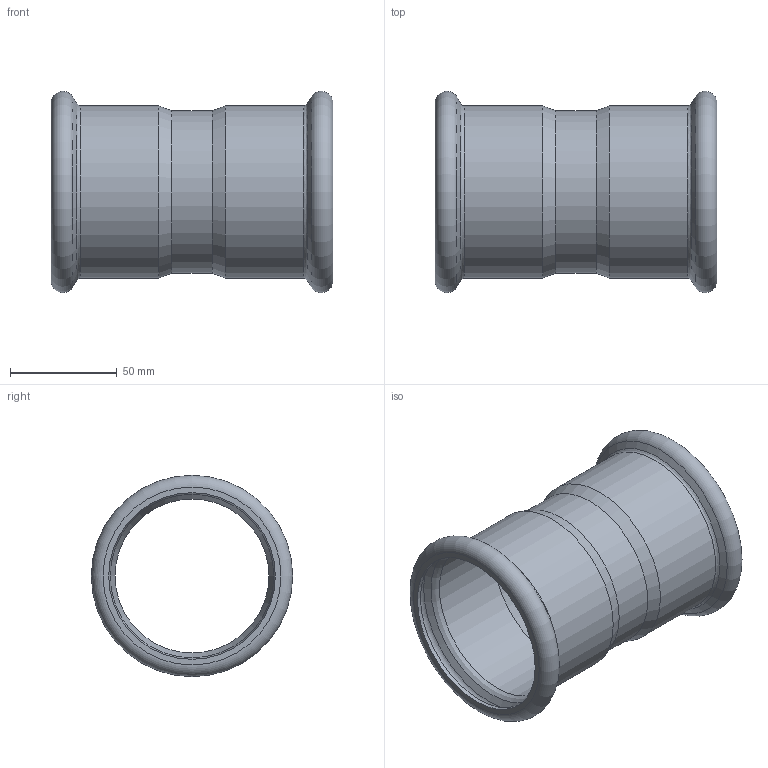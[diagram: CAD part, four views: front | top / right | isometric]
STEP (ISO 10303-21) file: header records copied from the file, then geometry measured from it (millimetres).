
FILE_DESCRIPTION((''),'2;1');
FILE_NAME('G:\Technics\CAD\Bauteile\076\6927076(1).stp','2008-03-10T10:26:13',('herberg'),(''),'Autodesk Inventor 2008','Autodesk Inventor 2008','');
FILE_SCHEMA(('AUTOMOTIVE_DESIGN { 1 0 10303 214 1 1 1 1 }'));
Length unit declared in the file: millimetre
Products named in the file (1): 6927076(1)
Bounding box: 132 x 94.3 x 94.3 mm (x, y, z)
Volume: 74166.9 mm3; surface area: 75160.3 mm2
Topology: 1 solids, 1 shells, 28 faces, 54 edges, 30 vertices
Faces by surface type: cone 8, cylinder 8, plane 4, torus 4, bspline 4
Full cylindrical faces by diameter (mm): 72.1 x1, 76.1 x1, 76.6 x2, 78 x2, 80.6 x2
Entity records: 754 total; most frequent: CARTESIAN_POINT 261, DIRECTION 106, ORIENTED_EDGE 56, EDGE_LOOP 56, AXIS2_PLACEMENT_3D 53, VERTEX_POINT 28, CIRCLE 28, EDGE_CURVE 28
